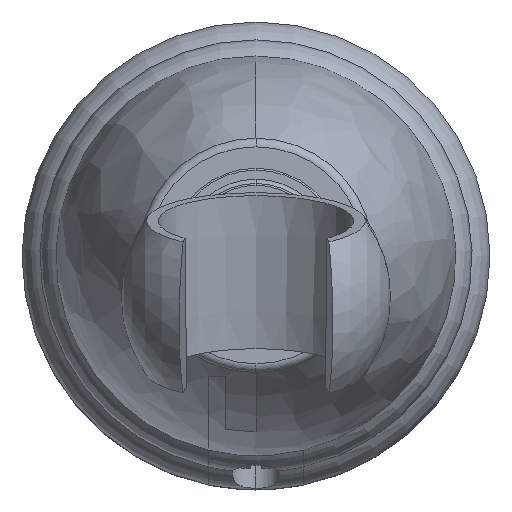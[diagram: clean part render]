
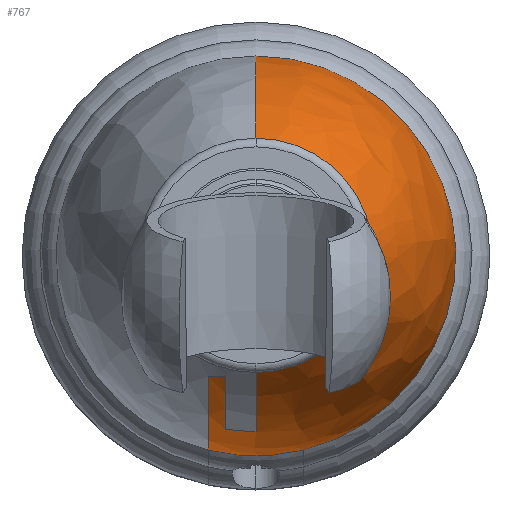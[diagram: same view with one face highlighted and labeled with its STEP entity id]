
A CAD part, top view. The second image highlights one B-rep face of the part: STEP entity #767.
In plain terms, the highlighted free-form (B-spline) face has degree [3, 3] with [7, 4] control points.
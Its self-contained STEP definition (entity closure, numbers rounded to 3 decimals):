
#100=CARTESIAN_POINT('',(-3.5,-20.023,25.34));
#101=CARTESIAN_POINT('',(-3.494,-19.532,26.92));
#102=CARTESIAN_POINT('',(-3.504,-18.422,30.024));
#103=CARTESIAN_POINT('',(-3.494,-16.405,34.495));
#104=CARTESIAN_POINT('',(-3.511,-14.834,37.322));
#105=CARTESIAN_POINT('',(-3.5,-14.,38.695));
#107=CARTESIAN_POINT('',(-3.5,-14.,38.695));
#108=CARTESIAN_POINT('',(-3.717,-14.,38.607));
#109=CARTESIAN_POINT('',(-4.154,-14.,38.41));
#110=CARTESIAN_POINT('',(-4.818,-14.,38.061));
#111=CARTESIAN_POINT('',(-5.271,-14.,37.786));
#112=CARTESIAN_POINT('',(-5.5,-14.,37.638));
#114=CARTESIAN_POINT('',(-5.5,-14.,37.638));
#115=CARTESIAN_POINT('',(-5.54,-15.256,35.542));
#116=CARTESIAN_POINT('',(-5.481,-17.57,31.131));
#117=CARTESIAN_POINT('',(-5.504,-20.21,23.813));
#118=CARTESIAN_POINT('',(-5.501,-21.885,16.144));
#119=CARTESIAN_POINT('',(-5.494,-22.329,10.91));
#120=CARTESIAN_POINT('',(-5.5,-22.377,8.28));
#141=CARTESIAN_POINT('',(5.5,-22.377,8.28));
#280=CARTESIAN_POINT('',(0.,0.,
8.28));
#281=DIRECTION('',(0.,0.,-1.));
#282=DIRECTION('',(0.,1.,0.));
#283=AXIS2_PLACEMENT_3D('',#280,#281,#282);
#285=CARTESIAN_POINT('',(0.,0.,
8.28));
#286=DIRECTION('',(0.,0.,-1.));
#287=DIRECTION('',(0.239,-0.971,0.));
#288=AXIS2_PLACEMENT_3D('',#285,#286,#287);
#290=CARTESIAN_POINT('',(-3.5,-20.023,25.34));
#291=CARTESIAN_POINT('',(-3.114,-20.09,25.34));
#292=CARTESIAN_POINT('',(-2.339,-20.203,25.34));
#293=CARTESIAN_POINT('',(-1.173,-20.304,25.34));
#294=CARTESIAN_POINT('',(-0.391,-20.327,
25.34));
#295=CARTESIAN_POINT('',(0.,-20.327,25.34));
#297=CARTESIAN_POINT('',(0.,38.934,7.158));
#298=DIRECTION('',(-1.,0.,0.));
#299=DIRECTION('',(0.,-0.956,0.293));
#300=AXIS2_PLACEMENT_3D('',#297,#298,#299);
#302=CARTESIAN_POINT('',(0.,0.,
40.22));
#303=DIRECTION('',(0.,0.,1.));
#304=DIRECTION('',(0.,-1.,0.));
#305=AXIS2_PLACEMENT_3D('',#302,#303,#304);
#307=CARTESIAN_POINT('',(0.,-38.934,
7.158));
#308=DIRECTION('',(-1.,0.,0.));
#309=DIRECTION('',(0.,0.846,0.533));
#310=AXIS2_PLACEMENT_3D('',#307,#308,#309);
#332=CARTESIAN_POINT('',(0.,13.5,40.22));
#333=VERTEX_POINT('',#332);
#334=CARTESIAN_POINT('',(0.,-13.5,40.22));
#335=VERTEX_POINT('',#334);
#336=CARTESIAN_POINT('',(0.,23.043,
8.28));
#337=CARTESIAN_POINT('',(-5.5,-22.377,8.28));
#338=VERTEX_POINT('',#336);
#339=VERTEX_POINT('',#337);
#340=CARTESIAN_POINT('',(0.,-20.327,25.34));
#341=VERTEX_POINT('',#340);
#342=VERTEX_POINT('',#290);
#343=VERTEX_POINT('',#105);
#344=VERTEX_POINT('',#112);
#348=VERTEX_POINT('',#141);
#727=CARTESIAN_POINT('',(-9.915,-20.81,7.605));
#728=CARTESIAN_POINT('',(-9.879,-20.733,19.464));
#729=CARTESIAN_POINT('',(-8.418,-17.668,30.827));
#730=CARTESIAN_POINT('',(-5.651,-11.859,40.789));
#731=CARTESIAN_POINT('',(4.927,-27.882,7.605));
#732=CARTESIAN_POINT('',(4.909,-27.779,19.464));
#733=CARTESIAN_POINT('',(4.183,-23.672,30.827));
#734=CARTESIAN_POINT('',(2.808,-15.89,40.789));
#735=CARTESIAN_POINT('',(19.589,-20.443,7.605));
#736=CARTESIAN_POINT('',(19.517,-20.368,19.464));
#737=CARTESIAN_POINT('',(16.632,-17.357,30.827));
#738=CARTESIAN_POINT('',(11.164,-11.651,40.789));
#739=CARTESIAN_POINT('',(22.649,-4.289,7.605));
#740=CARTESIAN_POINT('',(22.565,-4.273,19.464));
#741=CARTESIAN_POINT('',(19.229,-3.642,30.827));
#742=CARTESIAN_POINT('',(12.907,-2.444,40.789));
#743=CARTESIAN_POINT('',(25.708,11.865,7.605));
#744=CARTESIAN_POINT('',(25.613,11.821,19.464));
#745=CARTESIAN_POINT('',(21.827,10.073,30.827));
#746=CARTESIAN_POINT('',(14.651,6.762,40.789));
#747=CARTESIAN_POINT('',(14.781,24.15,7.605));
#748=CARTESIAN_POINT('',(14.726,24.06,19.464));
#749=CARTESIAN_POINT('',(12.549,20.503,30.827));
#750=CARTESIAN_POINT('',(8.424,13.763,40.789));
#751=CARTESIAN_POINT('',(-1.62,22.994,7.605));
#752=CARTESIAN_POINT('',(-1.614,22.909,19.464));
#753=CARTESIAN_POINT('',(-1.375,19.523,30.827));
#754=CARTESIAN_POINT('',(-0.923,13.104,40.789));
#755=(BOUNDED_SURFACE()B_SPLINE_SURFACE(3,3,((#727,#728,#729,#730),(#731,#732,
#733,#734),(#735,#736,#737,#738),(#739,#740,#741,#742),(#743,#744,#745,#746),(
#747,#748,#749,#750),(#751,#752,#753,#754)),.UNSPECIFIED.,.F.,.F.,.F.)B_SPLINE_SURFACE_WITH_KNOTS((4,3,4),(4,4),(0.,1.,2.),(0.,1.),.UNSPECIFIED.)GEOMETRIC_REPRESENTATION_ITEM()RATIONAL_B_SPLINE_SURFACE(((1.267,
1.233,1.233,1.267),(0.938,
0.913,0.913,0.938),(0.938,
0.913,0.913,0.938),(1.267,
1.233,1.233,1.267),(0.938,
0.913,0.913,0.938),(0.938,
0.913,0.913,0.938),(1.267,
1.233,1.233,1.267)))REPRESENTATION_ITEM('')SURFACE());
#756=ORIENTED_EDGE('',*,*,#569,.T.);
#757=ORIENTED_EDGE('',*,*,#586,.T.);
#758=ORIENTED_EDGE('',*,*,#552,.F.);
#759=ORIENTED_EDGE('',*,*,#550,.F.);
#760=ORIENTED_EDGE('',*,*,#548,.F.);
#761=ORIENTED_EDGE('',*,*,#546,.T.);
#762=ORIENTED_EDGE('',*,*,#544,.T.);
#763=ORIENTED_EDGE('',*,*,#477,.T.);
#764=ORIENTED_EDGE('',*,*,#541,.T.);
#765=EDGE_LOOP('',(#756,#757,#758,#759,#760,#761,#762,#763,#764));
#766=FACE_OUTER_BOUND('',#765,.F.);
#767=ADVANCED_FACE('',(#766),#755,.T.);
#106=B_SPLINE_CURVE_WITH_KNOTS('',3,(#100,#101,#102,#103,#104,#105),
.UNSPECIFIED.,.F.,.F.,(4,1,1,4),(0.,0.333,0.667,1.),
.UNSPECIFIED.);
#113=B_SPLINE_CURVE_WITH_KNOTS('',3,(#107,#108,#109,#110,#111,#112),
.UNSPECIFIED.,.F.,.F.,(4,1,1,4),(0.,0.333,0.667,1.),
.UNSPECIFIED.);
#121=B_SPLINE_CURVE_WITH_KNOTS('',3,(#114,#115,#116,#117,#118,#119,#120),
.UNSPECIFIED.,.F.,.F.,(4,1,1,1,4),(0.,0.25,0.5,0.75,1.),
.UNSPECIFIED.);
#284=CIRCLE('',#283,23.043);
#289=CIRCLE('',#288,23.043);
#296=B_SPLINE_CURVE_WITH_KNOTS('',3,(#290,#291,#292,#293,#294,#295),
.UNSPECIFIED.,.F.,.F.,(4,1,1,4),(0.,0.333,0.667,1.),
.UNSPECIFIED.);
#301=CIRCLE('',#300,61.987);
#306=CIRCLE('',#305,13.5);
#311=CIRCLE('',#310,61.987);
#477=EDGE_CURVE('',#335,#333,#306,.T.);
#541=EDGE_CURVE('',#333,#338,#311,.T.);
#544=EDGE_CURVE('',#341,#335,#301,.T.);
#546=EDGE_CURVE('',#342,#341,#296,.T.);
#548=EDGE_CURVE('',#342,#343,#106,.T.);
#550=EDGE_CURVE('',#343,#344,#113,.T.);
#552=EDGE_CURVE('',#344,#339,#121,.T.);
#569=EDGE_CURVE('',#338,#348,#284,.T.);
#586=EDGE_CURVE('',#348,#339,#289,.T.);
